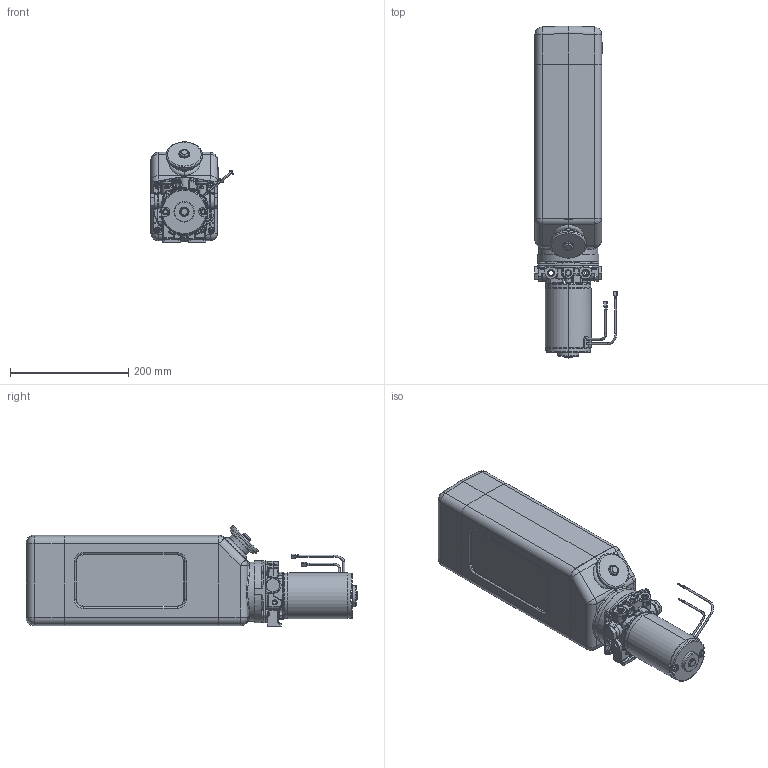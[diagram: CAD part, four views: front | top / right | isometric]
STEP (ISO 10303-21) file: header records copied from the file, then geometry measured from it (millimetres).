
FILE_DESCRIPTION((''),'2;1');
FILE_NAME('647803_SW0001','2012-03-27T',('da10877'),('OILDYNE'),'PRO/ENGINEER BY PARAMETRIC TECHNOLOGY CORPORATION, 2005380','PRO/ENGINEER BY PARAMETRIC TECHNOLOGY CORPORATION, 2005380','');
FILE_SCHEMA(('CONFIG_CONTROL_DESIGN'));
Length unit declared in the file: inch
Products named in the file (1): 647803_SW0001
Bounding box: 139.09 x 560.76 x 169.59 mm (x, y, z)
Surface area: 290291 mm2 (no closed solid volume)
Topology: 0 solids, 70 shells, 650 faces, 2811 edges, 2173 vertices
Faces by surface type: plane 187, cylinder 150, cone 116, torus 104, bspline 78, sphere 15
Entity records: 36407 total; most frequent: CARTESIAN_POINT 14908, DIRECTION 4375, ORIENTED_EDGE 3832, EDGE_CURVE 2807, VERTEX_POINT 2173, AXIS2_PLACEMENT_3D 1620, VECTOR 1135, LINE 1135
